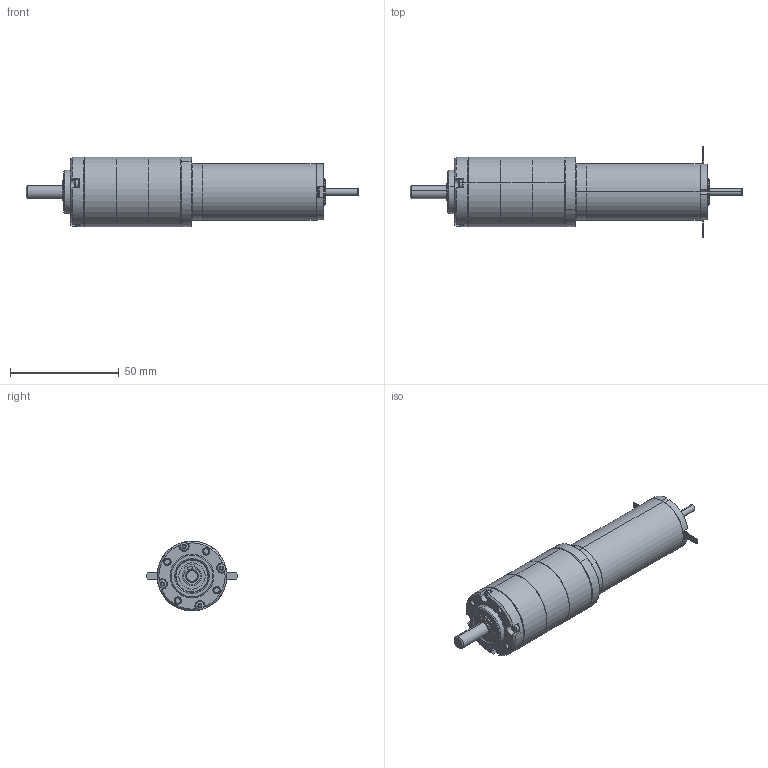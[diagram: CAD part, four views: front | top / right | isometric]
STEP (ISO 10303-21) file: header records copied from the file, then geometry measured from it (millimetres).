
FILE_DESCRIPTION (( 'STEP AP214' ), '1' );
FILE_NAME ('DCX26LG + PM32 3 etages.STEP', '2015-05-28T13:08:17', ( '' ), ( '' ), 'SwSTEP 2.0', 'SolidWorks 2014', '' );
FILE_SCHEMA (( 'AUTOMOTIVE_DESIGN' ));
Length unit declared in the file: millimetre
Products named in the file (20): DIN471_SR_06X00_7_1; GK545_POS23_4_ABTRIEB_LK4_KPL_1; GK235_POS13_LAGERBOLZEN_1; GK545_POS22_ABTRIEB_ROHTEIL_AF0_1; DIN998_PS_6X12X0_5_1; D625-619_6-2Z_1; D472_15X1_1; 8101913_LAGERFLANSCH_1; DCX26LG_Part; PM32 pour RE25_3 etages; DCX26LG + PM32 3 etages; P8209_8100249_ZAHNKRANZ_1ST_1; Coté moteur^PM32 pour RE25; SCHRAUBE_1237409; MOTORRITZEL_Z17_1248761; 8011610_ANLAUFSCHEIBE_G_1ST_1; MOTORFLANSCH_1248630; Coté sortie^PM32 pour RE25; FLACHKOPFSCHRAUBE_M2X21_PRECOTE_1; GK235_POS42_DICHTRING_1
Assembly tree (34 placements, depth 5):
  DCX26LG + PM32 3 etages
    DCX26LG_Part
    PM32 pour RE25_3 etages
      Coté sortie^PM32 pour RE25
        8101913_LAGERFLANSCH_1
        D472_15X1_1
        D625-619_6-2Z_1  x2
        DIN998_PS_6X12X0_5_1  x2
        GK545_POS23_4_ABTRIEB_LK4_KPL_1
          GK545_POS22_ABTRIEB_ROHTEIL_AF0_1
          GK235_POS13_LAGERBOLZEN_1  x3
        DIN471_SR_06X00_7_1
        GK235_POS42_DICHTRING_1
        FLACHKOPFSCHRAUBE_M2X21_PRECOTE_1  x4
      Coté moteur^PM32 pour RE25
        GK235_POS42_DICHTRING_1
        MOTORFLANSCH_1248630
        8011610_ANLAUFSCHEIBE_G_1ST_1
        MOTORRITZEL_Z17_1248761
        SCHRAUBE_1237409  x3
      P8209_8100249_ZAHNKRANZ_1ST_1  x3
      GK235_POS42_DICHTRING_1  x3
Bounding box: 152.3 x 41.5 x 32 mm (x, y, z)
Volume: 47790.7 mm3; surface area: 45510.8 mm2
Topology: 40 solids, 66 shells, 2964 faces, 7732 edges, 4976 vertices
Faces by surface type: plane 1173, cylinder 1115, cone 471, bspline 205
Entity records: 86918 total; most frequent: CARTESIAN_POINT 16969, DIRECTION 11757, ORIENTED_EDGE 11410, EDGE_CURVE 5724, AXIS2_PLACEMENT_3D 4175, VERTEX_POINT 3656, LINE 3407, VECTOR 3407
